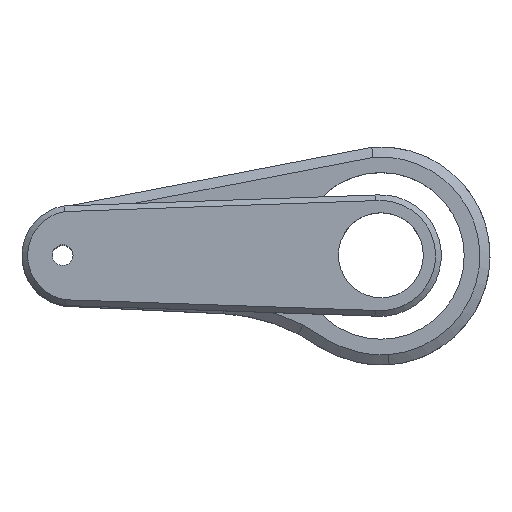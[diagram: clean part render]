
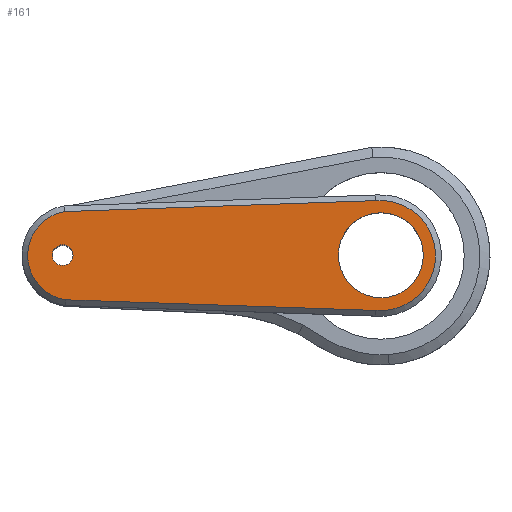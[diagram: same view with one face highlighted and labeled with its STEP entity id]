
A CAD part, top view. The second image highlights one B-rep face of the part: STEP entity #161.
In plain terms, the highlighted planar face has unit normal (0, 0, 1).
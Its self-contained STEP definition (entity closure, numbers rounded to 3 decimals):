
#106=FACE_BOUND('',#277,.T.);
#107=FACE_BOUND('',#278,.T.);
#108=FACE_BOUND('',#279,.T.);
#132=PLANE('',#988);
#161=ADVANCED_FACE('',(#106,#107,#108),#132,.T.);
#277=EDGE_LOOP('',(#388,#389,#390,#391));
#278=EDGE_LOOP('',(#392));
#279=EDGE_LOOP('',(#393));
#350=CIRCLE('',#984,6.186);
#351=CIRCLE('',#985,7.627);
#352=CIRCLE('',#986,5.879);
#353=CIRCLE('',#987,1.439);
#388=ORIENTED_EDGE('',*,*,#728,.T.);
#389=ORIENTED_EDGE('',*,*,#729,.T.);
#390=ORIENTED_EDGE('',*,*,#730,.T.);
#391=ORIENTED_EDGE('',*,*,#731,.T.);
#392=ORIENTED_EDGE('',*,*,#732,.T.);
#393=ORIENTED_EDGE('',*,*,#733,.T.);
#642=VERTEX_POINT('',#1281);
#643=VERTEX_POINT('',#1282);
#644=VERTEX_POINT('',#1284);
#645=VERTEX_POINT('',#1286);
#646=VERTEX_POINT('',#1289);
#647=VERTEX_POINT('',#1291);
#728=EDGE_CURVE('',#642,#643,#350,.T.);
#729=EDGE_CURVE('',#643,#644,#855,.T.);
#730=EDGE_CURVE('',#644,#645,#351,.T.);
#731=EDGE_CURVE('',#645,#642,#856,.T.);
#732=EDGE_CURVE('',#646,#646,#352,.T.);
#733=EDGE_CURVE('',#647,#647,#353,.T.);
#855=LINE('',#1283,#916);
#856=LINE('',#1287,#917);
#916=VECTOR('',#1074,1.);
#917=VECTOR('',#1077,1.);
#984=AXIS2_PLACEMENT_3D('',#1280,#1072,#1073);
#985=AXIS2_PLACEMENT_3D('',#1285,#1075,#1076);
#986=AXIS2_PLACEMENT_3D('',#1288,#1078,#1079);
#987=AXIS2_PLACEMENT_3D('',#1290,#1080,#1081);
#988=AXIS2_PLACEMENT_3D('',#1292,#1082,#1083);
#1072=DIRECTION('',(0.,0.,1.));
#1073=DIRECTION('',(1.,0.,0.));
#1074=DIRECTION('',(0.999,-0.034,0.));
#1075=DIRECTION('',(0.,0.,1.));
#1076=DIRECTION('',(1.,0.,0.));
#1077=DIRECTION('',(-0.999,-0.035,0.));
#1078=DIRECTION('',(0.,0.,-1.));
#1079=DIRECTION('',(1.,0.,0.));
#1080=DIRECTION('',(0.,0.,-1.));
#1081=DIRECTION('',(1.,0.,0.));
#1082=DIRECTION('',(0.,0.,1.));
#1083=DIRECTION('',(1.,0.,0.));
#1280=CARTESIAN_POINT('',(1.327,-0.072,74.705));
#1281=CARTESIAN_POINT('',(0.27,6.022,74.705));
#1282=CARTESIAN_POINT('',(0.441,-6.194,74.705));
#1283=CARTESIAN_POINT('',(43.338,-7.663,74.705));
#1284=CARTESIAN_POINT('',(43.356,-7.663,74.705));
#1285=CARTESIAN_POINT('',(43.986,-0.063,74.705));
#1286=CARTESIAN_POINT('',(43.334,7.536,74.705));
#1287=CARTESIAN_POINT('',(0.218,6.021,74.705));
#1288=CARTESIAN_POINT('',(44.043,-0.019,74.705));
#1289=CARTESIAN_POINT('',(49.922,-0.019,74.705));
#1290=CARTESIAN_POINT('',(0.,0.,74.705));
#1291=CARTESIAN_POINT('',(1.439,0.,74.705));
#1292=CARTESIAN_POINT('',(1.327,-0.072,74.705));
